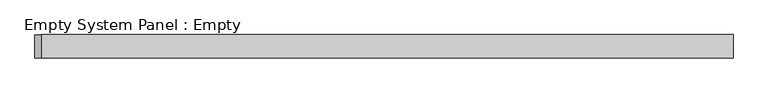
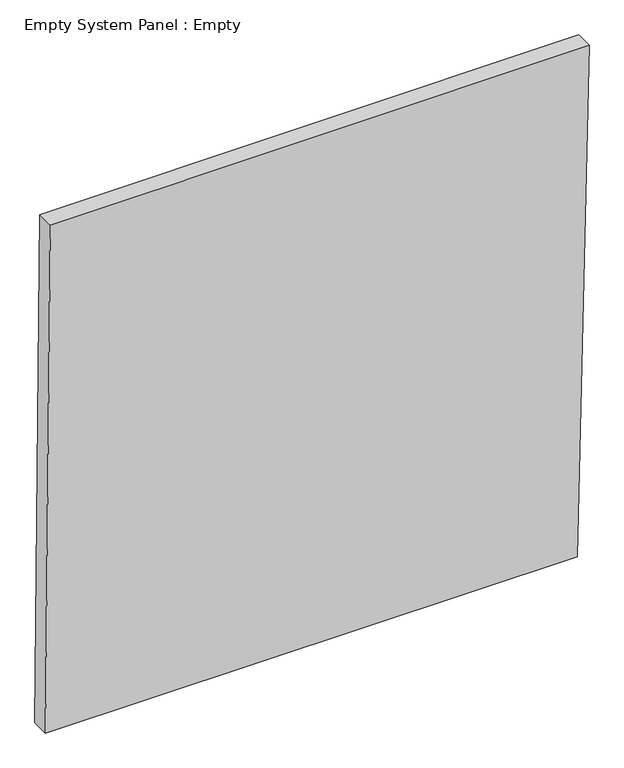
"""IFC4 building model written with IfcOpenShell, lengths in millimetres: plate geometry, Empty System Panel : Empty."""

from ifc_helpers import new_model, si_unit, frame, origin, place, context, project, spatial, polyline, outline, extrude, source, transform, mapped, element, save


def empty_system_panel_empty_fd27e089(model_context):
    return source(origin(), model_context, "Body", "SweptSolid", [
        extrude(outline(polyline([(0.0, -1514.9097804), (0.0, 1450.1497441), (2991.502426, 1514.9097804), (2982.8873768, -1487.569486), (0.0, -1514.9097804)])), frame((0.0, -50.8, 0.0), z_axis=(0.0, 1.0, 0.0), x_axis=(0.0, 0.0, 1.0)), (0.0, 0.0, 1.0), 101.6),
    ])


if __name__ == "__main__":
    model = new_model("IFC4")
    model_context = context("Model", 3, world=origin())
    ifc_project = project(units=[si_unit("LENGTHUNIT", "METRE", prefix="MILLI")], contexts=[model_context])
    site = spatial("IfcSite", under=ifc_project)
    building = spatial("IfcBuilding", under=site)
    placement = place(None, origin())
    empty_system_panel_empty_shape = empty_system_panel_empty_fd27e089(model_context)
    element("IfcPlate", 1, ObjectType="Empty System Panel : Empty", at=placement, inside=building, context=model_context, shape_type="MappedRepresentation", body=[
        mapped(empty_system_panel_empty_shape, transform((0.0, 0.0, 0.0), x_axis=(1.0, 0.0, 0.0), y_axis=(0.0, 1.0, 0.0), z_axis=(0.0, 0.0, 1.0))),
    ])
    save(model, "model.ifc")
